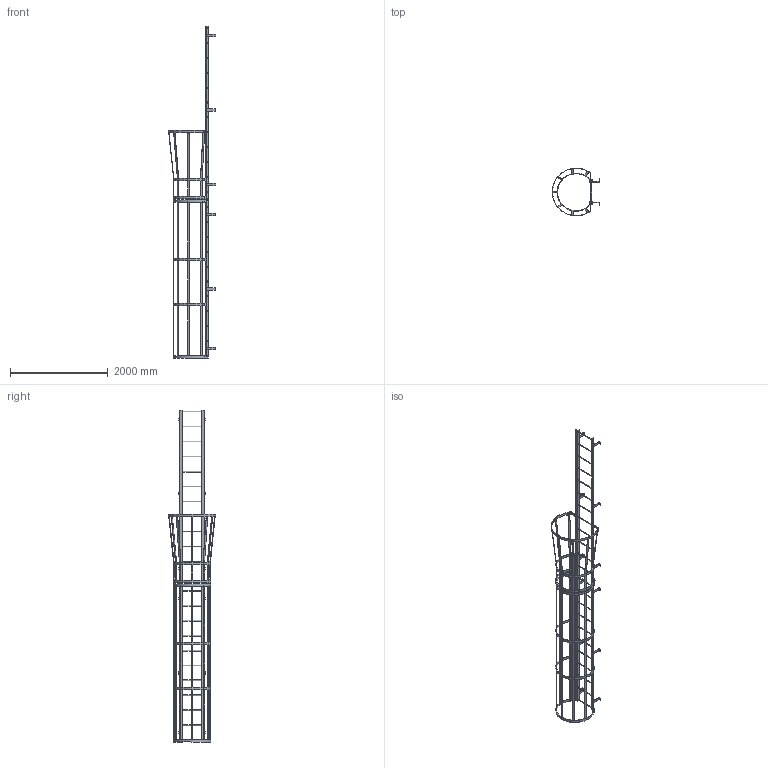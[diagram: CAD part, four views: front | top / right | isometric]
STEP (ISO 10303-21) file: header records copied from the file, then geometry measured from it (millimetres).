
FILE_DESCRIPTION(/* description */ (''),/* implementation_level */ '2;1');
FILE_NAME(/* name */ 'P:\MIKEL & KAREN\D0570195-09 F23SC SIMPLIFIED PART.stp',/* time_stamp */ '2018-07-03T08:06:54-04:00',/* author */ ('stephanie'),/* organization */ (''),/* preprocessor_version */ 'ST-DEVELOPER v16.1',/* originating_system */ 'Autodesk Inventor 2016',/* authorisation */ '');
FILE_SCHEMA (('AUTOMOTIVE_DESIGN { 1 0 10303 214 3 1 1 }'));
Length unit declared in the file: centimetre
Products named in the file (1): D0570195-09 F23SC SIMPLIFIED PART
Bounding box: 974.15 x 977.88 x 6781.8 mm (x, y, z)
Volume: 22441658.4 mm3; surface area: 7883710.2 mm2
Topology: 38 solids, 40 shells, 766 faces, 2174 edges, 1390 vertices
Faces by surface type: plane 496, cylinder 238, cone 32
Full cylindrical faces by diameter (mm): 12.7 x4, 14.287 x14, 16.193 x2, 19.05 x25, 22.225 x46
Entity records: 24883 total; most frequent: CARTESIAN_POINT 4212, ORIENTED_EDGE 4178, DIRECTION 4087, EDGE_CURVE 2005, AXIS2_PLACEMENT_3D 1375, LINE 1337, VECTOR 1337, VERTEX_POINT 1320
